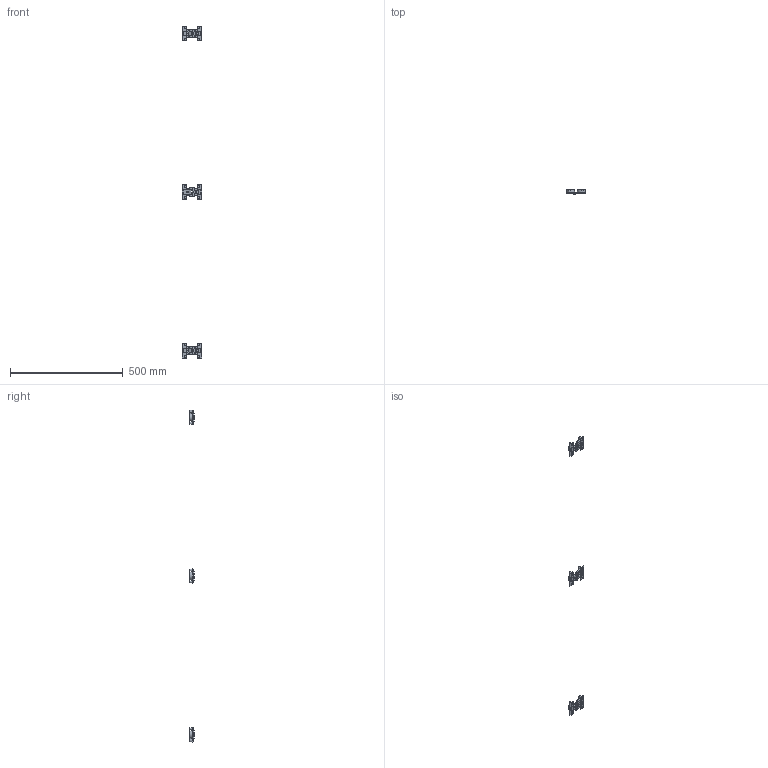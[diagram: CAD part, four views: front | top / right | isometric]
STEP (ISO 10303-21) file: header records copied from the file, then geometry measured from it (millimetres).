
FILE_DESCRIPTION( ( 'STEP AP214' ), '1' );
FILE_NAME( 'D:/Yug/2020/Sliding_&_Folding_Door_System/WingLine_L/Stay closed set & Centre Hinge/QC/9278787.stp', '2020-06-15T11:53:24', ( '' ), ( '' ), ' ', 'PARTsolutions', ' ' );
FILE_SCHEMA( ( 'AUTOMOTIVE_DESIGN { 1 0 10303 214 1 1 1 1 }' ) );
Length unit declared in the file: millimetre
Products named in the file (2): 9278787; _ 52095
Assembly tree (3 placements, depth 2):
  9278787
    _ 52095  x3
Bounding box: 88 x 20 x 1473 mm (x, y, z)
Volume: 112584 mm3; surface area: 46945.9 mm2
Topology: 3 solids, 3 shells, 270 faces, 714 edges, 465 vertices
Faces by surface type: plane 195, cylinder 75
Full cylindrical faces by diameter (mm): 3 x12, 4.92 x6, 10 x24, 35 x6
Entity records: 3389 total; most frequent: DIRECTION 471, CARTESIAN_POINT 445, ORIENTED_EDGE 418, EDGE_CURVE 209, AXIS2_PLACEMENT_3D 168, VERTEX_POINT 142, LINE 135, VECTOR 135
